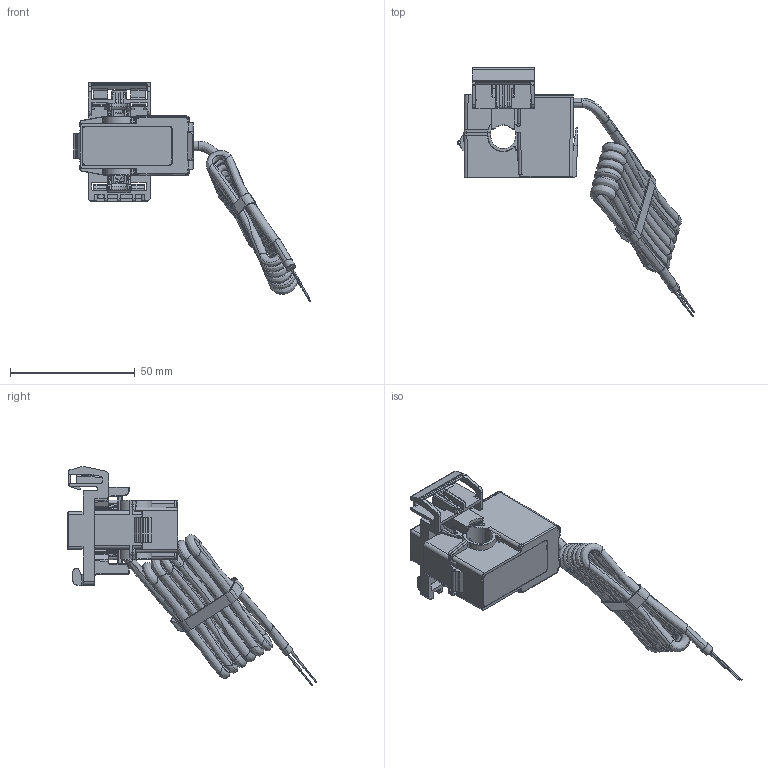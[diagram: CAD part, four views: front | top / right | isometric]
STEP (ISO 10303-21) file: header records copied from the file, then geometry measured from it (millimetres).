
FILE_DESCRIPTION(('Creo Elements/Direct Modeling STEP Export'),'2;1');
FILE_NAME('70.B9.08.004.0_20181219.stp','2018-12-19T15:12:07',(''),(''),'Creo Elements/Direct Modeling STEP processor for AP214 (Solid Model)','Creo Elements/Direct Modeling 20.1 10-Mar-2018 (C) Parametric Technology GmbH','');
FILE_SCHEMA(('AUTOMOTIVE_DESIGN { 1 0 10303 214 1 1 1 1 }'));
Products named in the file (2): 70.B9.08.004.0_20181219
Assembly tree (1 placements, depth 2):
  70.B9.08.004.0_20181219
    70.B9.08.004.0_20181219
Bounding box: 95.15 x 100.13 x 87.75 mm (x, y, z)
Volume: 43319.7 mm3; surface area: 26569.9 mm2
Topology: 1 solids, 3 shells, 1897 faces, 5390 edges, 3501 vertices
Faces by surface type: plane 1327, cylinder 379, bspline 144, torus 35, extrusion 8, cone 2, sphere 2
Entity records: 99848 total; most frequent: CARTESIAN_POINT 51348, ORIENTED_EDGE 10768, DIRECTION 8776, EDGE_CURVE 5384, VECTOR 4110, LINE 4102, VERTEX_POINT 3505, AXIS2_PLACEMENT_3D 2333
